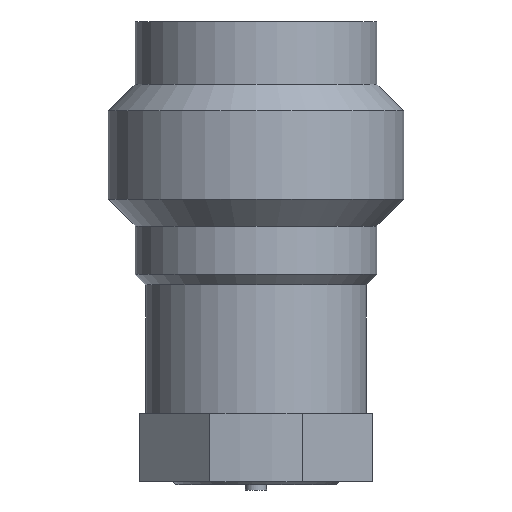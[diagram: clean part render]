
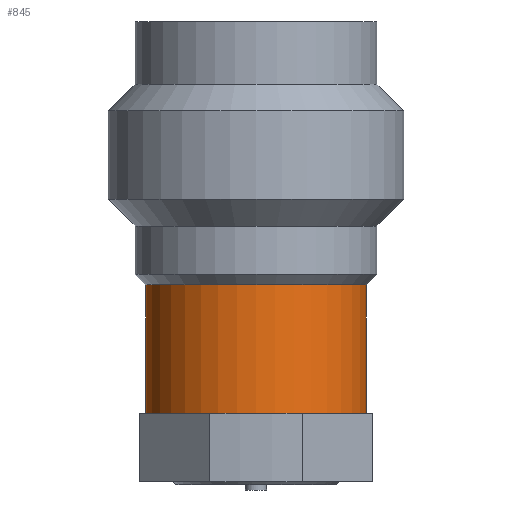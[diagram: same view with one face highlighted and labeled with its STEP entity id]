
A CAD part, front view. The second image highlights one B-rep face of the part: STEP entity #845.
In plain terms, the highlighted cylindrical face has radius 2.667 mm (diameter 5.334 mm), a partial arc.
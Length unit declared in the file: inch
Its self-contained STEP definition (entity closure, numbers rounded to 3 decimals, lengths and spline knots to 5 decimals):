
#25 = EDGE_CURVE ( 'NONE', #1374, #569, #718, .T. ) ;
#308 = LINE ( 'NONE', #329, #640 ) ;
#315 = CARTESIAN_POINT ( 'NONE',  ( 0., 0., -0.25 ) ) ;
#329 = CARTESIAN_POINT ( 'NONE',  ( -0.105, 0., 0. ) ) ;
#348 = DIRECTION ( 'NONE',  ( 0., 0., 1. ) ) ;
#360 = AXIS2_PLACEMENT_3D ( 'NONE', #315, #1307, #1665 ) ;
#420 = DIRECTION ( 'NONE',  ( 0., 0., 1. ) ) ;
#423 = ORIENTED_EDGE ( 'NONE', *, *, #1284, .F. ) ;
#537 = VERTEX_POINT ( 'NONE', #1774 ) ;
#551 = CARTESIAN_POINT ( 'NONE',  ( -0.105, 0., -0.372 ) ) ;
#569 = VERTEX_POINT ( 'NONE', #1703 ) ;
#608 = FACE_OUTER_BOUND ( 'NONE', #880, .T. ) ;
#640 = VECTOR ( 'NONE', #348, 39.37008 ) ;
#651 = DIRECTION ( 'NONE',  ( -1., 0., 0. ) ) ;
#718 = LINE ( 'NONE', #1093, #2091 ) ;
#776 = DIRECTION ( 'NONE',  ( 1., 0., 0. ) ) ;
#809 = CARTESIAN_POINT ( 'NONE',  ( 0., 0., -0.372 ) ) ;
#845 = ADVANCED_FACE ( 'NONE', ( #608 ), #1092, .T. ) ;
#880 = EDGE_LOOP ( 'NONE', ( #423, #1708, #1911, #1491 ) ) ;
#1092 = CYLINDRICAL_SURFACE ( 'NONE', #2085, 0.105 ) ;
#1093 = CARTESIAN_POINT ( 'NONE',  ( 0.105, 0., 0. ) ) ;
#1162 = EDGE_CURVE ( 'NONE', #537, #569, #1889, .T. ) ;
#1284 = EDGE_CURVE ( 'NONE', #1858, #537, #308, .T. ) ;
#1307 = DIRECTION ( 'NONE',  ( 0., 0., 1. ) ) ;
#1374 = VERTEX_POINT ( 'NONE', #2090 ) ;
#1491 = ORIENTED_EDGE ( 'NONE', *, *, #1162, .F. ) ;
#1552 = AXIS2_PLACEMENT_3D ( 'NONE', #809, #1801, #651 ) ;
#1643 = DIRECTION ( 'NONE',  ( 0., 0., 1. ) ) ;
#1665 = DIRECTION ( 'NONE',  ( 1., 0., 0. ) ) ;
#1703 = CARTESIAN_POINT ( 'NONE',  ( 0.105, 0., -0.25 ) ) ;
#1708 = ORIENTED_EDGE ( 'NONE', *, *, #1719, .F. ) ;
#1719 = EDGE_CURVE ( 'NONE', #1374, #1858, #1743, .T. ) ;
#1743 = CIRCLE ( 'NONE', #1552, 0.105 ) ;
#1744 = CARTESIAN_POINT ( 'NONE',  ( 0., 0., 0. ) ) ;
#1774 = CARTESIAN_POINT ( 'NONE',  ( -0.105, 0., -0.25 ) ) ;
#1801 = DIRECTION ( 'NONE',  ( 0., 0., -1. ) ) ;
#1858 = VERTEX_POINT ( 'NONE', #551 ) ;
#1889 = CIRCLE ( 'NONE', #360, 0.105 ) ;
#1911 = ORIENTED_EDGE ( 'NONE', *, *, #25, .T. ) ;
#2085 = AXIS2_PLACEMENT_3D ( 'NONE', #1744, #1643, #776 ) ;
#2090 = CARTESIAN_POINT ( 'NONE',  ( 0.105, 0., -0.372 ) ) ;
#2091 = VECTOR ( 'NONE', #420, 39.37008 ) ;
